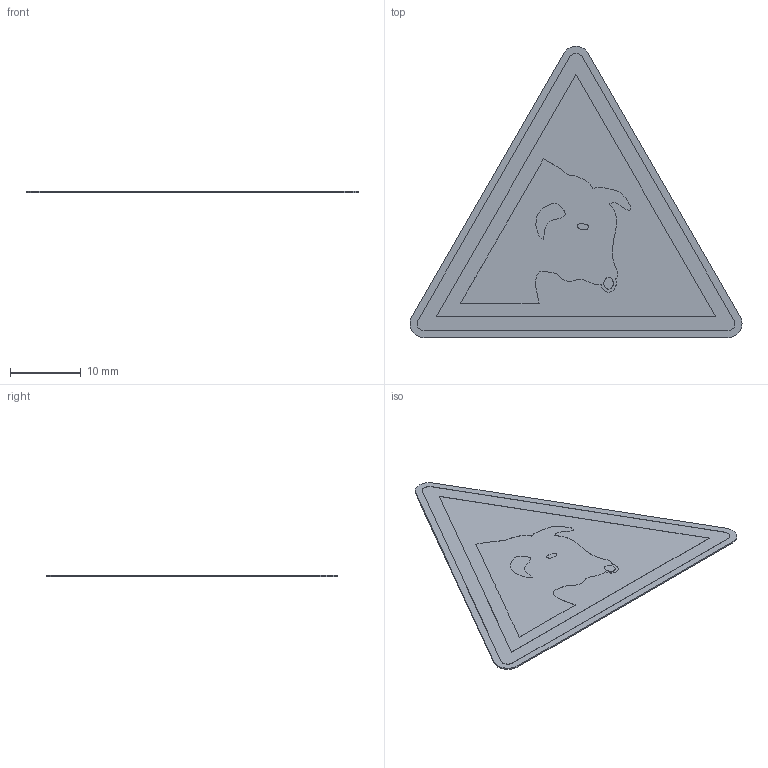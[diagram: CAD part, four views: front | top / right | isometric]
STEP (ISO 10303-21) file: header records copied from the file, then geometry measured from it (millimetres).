
FILE_DESCRIPTION (( 'STEP AP214' ), '1' );
FILE_NAME ('W034_Warnung vor Stier.STEP', '2022-03-03T14:09:49', ( '' ), ( '' ), 'SwSTEP 2.0', 'SolidWorks 2021', '' );
FILE_SCHEMA (( 'AUTOMOTIVE_DESIGN' ));
Length unit declared in the file: millimetre
Products named in the file (1): W034_Warnung vor Stier
Bounding box: 47.07 x 41.3 x 0.22 mm (x, y, z)
Volume: 222.5 mm3; surface area: 2183.1 mm2
Topology: 1 solids, 1 shells, 150 faces, 426 edges, 284 vertices
Faces by surface type: plane 103, cylinder 47
Entity records: 6416 total; most frequent: CARTESIAN_POINT 861, ORIENTED_EDGE 852, DIRECTION 822, EDGE_CURVE 426, VECTOR 332, LINE 332, VERTEX_POINT 284, AXIS2_PLACEMENT_3D 245
